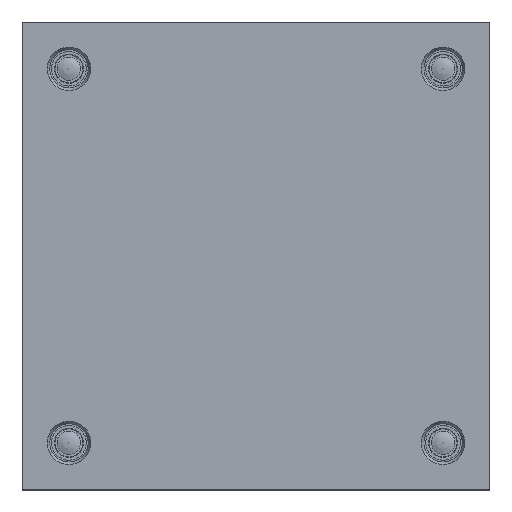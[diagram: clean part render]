
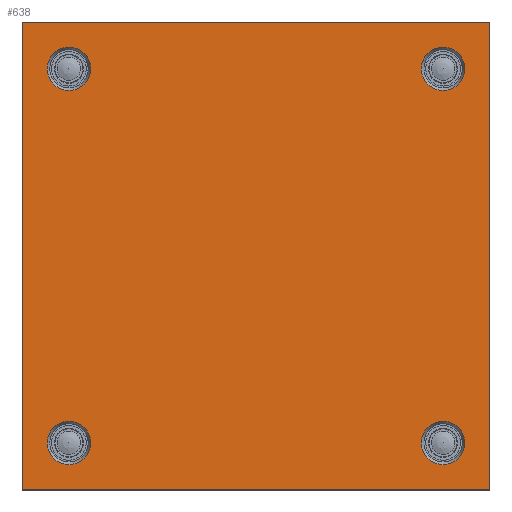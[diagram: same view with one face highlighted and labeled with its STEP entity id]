
A CAD part, top view. The second image highlights one B-rep face of the part: STEP entity #638.
In plain terms, the highlighted planar face has unit normal (0, 0, 1).
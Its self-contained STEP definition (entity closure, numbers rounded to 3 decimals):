
#638 = ADVANCED_FACE( '', ( #1333, #1334, #1335, #1336, #1337 ), #1338, .F. );
#1333 = FACE_BOUND( '', #2071, .T. );
#1334 = FACE_BOUND( '', #2072, .T. );
#1335 = FACE_BOUND( '', #2073, .T. );
#1336 = FACE_BOUND( '', #2074, .T. );
#1337 = FACE_OUTER_BOUND( '', #2075, .T. );
#1338 = PLANE( '', #2076 );
#2071 = EDGE_LOOP( '', ( #3550 ) );
#2072 = EDGE_LOOP( '', ( #3551 ) );
#2073 = EDGE_LOOP( '', ( #3552 ) );
#2074 = EDGE_LOOP( '', ( #3553 ) );
#2075 = EDGE_LOOP( '', ( #3554, #3555, #3556, #3557 ) );
#2076 = AXIS2_PLACEMENT_3D( '', #3558, #3559, #3560 );
#3550 = ORIENTED_EDGE( '', *, *, #4500, .T. );
#3551 = ORIENTED_EDGE( '', *, *, #4356, .T. );
#3552 = ORIENTED_EDGE( '', *, *, #4501, .T. );
#3553 = ORIENTED_EDGE( '', *, *, #4392, .T. );
#3554 = ORIENTED_EDGE( '', *, *, #4015, .T. );
#3555 = ORIENTED_EDGE( '', *, *, #4196, .F. );
#3556 = ORIENTED_EDGE( '', *, *, #4349, .F. );
#3557 = ORIENTED_EDGE( '', *, *, #4424, .T. );
#3558 = CARTESIAN_POINT( '', ( -100., 100., 0. ) );
#3559 = DIRECTION( '', ( 0., 0., -1. ) );
#3560 = DIRECTION( '', ( -1., 0., 0. ) );
#4015 = EDGE_CURVE( '', #4711, #4715, #4717, .T. );
#4196 = EDGE_CURVE( '', #5010, #4715, #5012, .T. );
#4349 = EDGE_CURVE( '', #5236, #5010, #5238, .T. );
#4356 = EDGE_CURVE( '', #5246, #5246, #5247, .T. );
#4392 = EDGE_CURVE( '', #5295, #5295, #5296, .T. );
#4424 = EDGE_CURVE( '', #5236, #4711, #5336, .T. );
#4500 = EDGE_CURVE( '', #5433, #5433, #5434, .T. );
#4501 = EDGE_CURVE( '', #5435, #5435, #5436, .T. );
#4711 = VERTEX_POINT( '', #5700 );
#4715 = VERTEX_POINT( '', #5706 );
#4717 = LINE( '', #5709, #5710 );
#5010 = VERTEX_POINT( '', #6118 );
#5012 = LINE( '', #6121, #6122 );
#5236 = VERTEX_POINT( '', #6420 );
#5238 = LINE( '', #6423, #6424 );
#5246 = VERTEX_POINT( '', #6435 );
#5247 = CIRCLE( '', #6436, 9.3 );
#5295 = VERTEX_POINT( '', #6490 );
#5296 = CIRCLE( '', #6491, 9.3 );
#5336 = LINE( '', #6545, #6546 );
#5433 = VERTEX_POINT( '', #6669 );
#5434 = CIRCLE( '', #6670, 9.3 );
#5435 = VERTEX_POINT( '', #6671 );
#5436 = CIRCLE( '', #6672, 9.3 );
#5700 = CARTESIAN_POINT( '', ( -100., -100., 0. ) );
#5706 = CARTESIAN_POINT( '', ( 100., -100., 0. ) );
#5709 = CARTESIAN_POINT( '', ( -100., -100., 0. ) );
#5710 = VECTOR( '', #6861, 1000. );
#6118 = CARTESIAN_POINT( '', ( 100., 100., 0. ) );
#6121 = CARTESIAN_POINT( '', ( 100., 100., 0. ) );
#6122 = VECTOR( '', #7068, 1000. );
#6420 = CARTESIAN_POINT( '', ( -100., 100., 0. ) );
#6423 = CARTESIAN_POINT( '', ( -100., 100., 0. ) );
#6424 = VECTOR( '', #7267, 1000. );
#6435 = CARTESIAN_POINT( '', ( 70.7, -80., 0. ) );
#6436 = AXIS2_PLACEMENT_3D( '', #7271, #7272, #7273 );
#6490 = CARTESIAN_POINT( '', ( 70.7, 80., 0. ) );
#6491 = AXIS2_PLACEMENT_3D( '', #7316, #7317, #7318 );
#6545 = CARTESIAN_POINT( '', ( -100., 100., 0. ) );
#6546 = VECTOR( '', #7348, 1000. );
#6669 = CARTESIAN_POINT( '', ( -89.3, 80., 0. ) );
#6670 = AXIS2_PLACEMENT_3D( '', #7417, #7418, #7419 );
#6671 = CARTESIAN_POINT( '', ( -89.3, -80., 0. ) );
#6672 = AXIS2_PLACEMENT_3D( '', #7420, #7421, #7422 );
#6861 = DIRECTION( '', ( 1., 0., 0. ) );
#7068 = DIRECTION( '', ( 0., -1., 0. ) );
#7267 = DIRECTION( '', ( 1., 0., 0. ) );
#7271 = CARTESIAN_POINT( '', ( 80., -80., 0. ) );
#7272 = DIRECTION( '', ( 0., 0., -1. ) );
#7273 = DIRECTION( '', ( -1., 0., 0. ) );
#7316 = CARTESIAN_POINT( '', ( 80., 80., 0. ) );
#7317 = DIRECTION( '', ( 0., 0., -1. ) );
#7318 = DIRECTION( '', ( -1., 0., 0. ) );
#7348 = DIRECTION( '', ( 0., -1., 0. ) );
#7417 = CARTESIAN_POINT( '', ( -80., 80., 0. ) );
#7418 = DIRECTION( '', ( 0., 0., -1. ) );
#7419 = DIRECTION( '', ( -1., 0., 0. ) );
#7420 = CARTESIAN_POINT( '', ( -80., -80., 0. ) );
#7421 = DIRECTION( '', ( 0., 0., -1. ) );
#7422 = DIRECTION( '', ( -1., 0., 0. ) );
